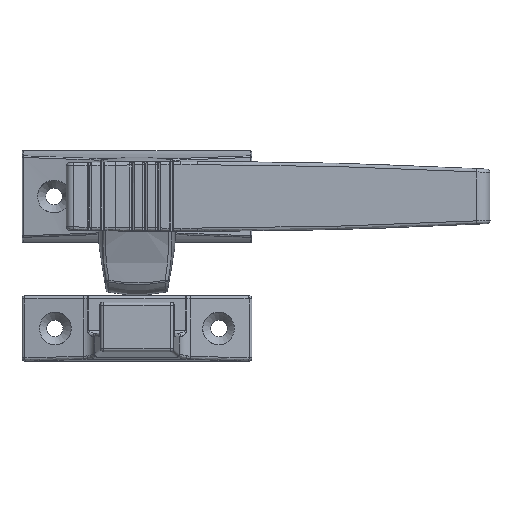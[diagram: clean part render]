
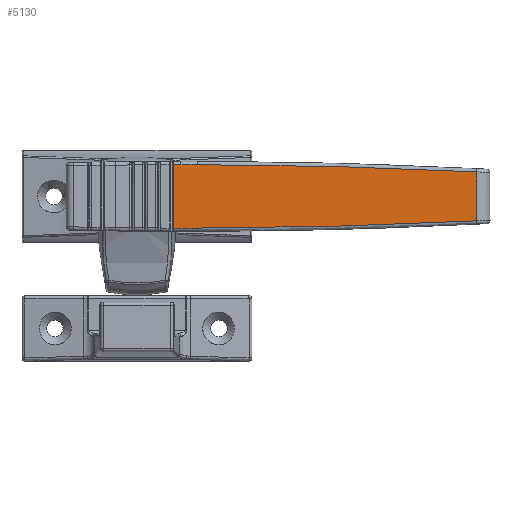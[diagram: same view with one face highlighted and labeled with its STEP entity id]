
A CAD part, top view. The second image highlights one B-rep face of the part: STEP entity #5130.
In plain terms, the highlighted cylindrical face has radius 6498.5 mm (diameter 12997 mm), a partial arc.
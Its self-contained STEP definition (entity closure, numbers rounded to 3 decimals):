
#229=B_SPLINE_CURVE_WITH_KNOTS('',3,(#9827,#9828,#9829,#9830),
 .UNSPECIFIED.,.F.,.F.,(4,4),(9.11,9.331),
 .UNSPECIFIED.);
#231=B_SPLINE_CURVE_WITH_KNOTS('',3,(#9839,#9840,#9841,#9842),
 .UNSPECIFIED.,.F.,.F.,(4,4),(0.,8.499),.UNSPECIFIED.);
#232=B_SPLINE_CURVE_WITH_KNOTS('',3,(#9846,#9847,#9848,#9849),
 .UNSPECIFIED.,.F.,.F.,(4,4),(2.6,11.099),
 .UNSPECIFIED.);
#233=B_SPLINE_CURVE_WITH_KNOTS('',3,(#9852,#9853,#9854,#9855),
 .UNSPECIFIED.,.F.,.F.,(4,4),(1.77,1.991),
 .UNSPECIFIED.);
#543=LINE('',#8352,#765);
#571=LINE('',#9844,#793);
#765=VECTOR('',#6334,19.291);
#793=VECTOR('',#6436,14.913);
#1183=FACE_OUTER_BOUND('',#1552,.T.);
#1552=EDGE_LOOP('',(#3858,#3859,#3860,#3861,#3862,#3863,#3864,#3865));
#1908=CIRCLE('',#5570,6498.5);
#1909=CIRCLE('',#5571,6498.5);
#2203=VERTEX_POINT('',#8346);
#2204=VERTEX_POINT('',#8351);
#2286=VERTEX_POINT('',#9816);
#2287=VERTEX_POINT('',#9836);
#2288=VERTEX_POINT('',#9838);
#2289=VERTEX_POINT('',#9843);
#2290=VERTEX_POINT('',#9845);
#2291=VERTEX_POINT('',#9850);
#2745=EDGE_CURVE('',#2204,#2203,#543,.T.);
#2860=EDGE_CURVE('',#2286,#2203,#229,.T.);
#2862=EDGE_CURVE('',#2287,#2286,#1908,.T.);
#2863=EDGE_CURVE('',#2288,#2287,#231,.T.);
#2864=EDGE_CURVE('',#2289,#2288,#571,.T.);
#2865=EDGE_CURVE('',#2290,#2289,#232,.T.);
#2866=EDGE_CURVE('',#2291,#2290,#1909,.T.);
#2867=EDGE_CURVE('',#2204,#2291,#233,.T.);
#3858=ORIENTED_EDGE('',*,*,#2745,.T.);
#3859=ORIENTED_EDGE('',*,*,#2860,.F.);
#3860=ORIENTED_EDGE('',*,*,#2862,.F.);
#3861=ORIENTED_EDGE('',*,*,#2863,.F.);
#3862=ORIENTED_EDGE('',*,*,#2864,.F.);
#3863=ORIENTED_EDGE('',*,*,#2865,.F.);
#3864=ORIENTED_EDGE('',*,*,#2866,.F.);
#3865=ORIENTED_EDGE('',*,*,#2867,.F.);
#4936=CYLINDRICAL_SURFACE('',#5569,6498.5);
#5130=ADVANCED_FACE('',(#1183),#4936,.F.);
#5569=AXIS2_PLACEMENT_3D('',#9835,#6432,#6433);
#5570=AXIS2_PLACEMENT_3D('',#9837,#6434,#6435);
#5571=AXIS2_PLACEMENT_3D('',#9851,#6437,#6438);
#6334=DIRECTION('',(0.,-1.,0.));
#6432=DIRECTION('center_axis',(0.,1.,0.));
#6433=DIRECTION('ref_axis',(-0.018,0.,1.));
#6434=DIRECTION('center_axis',(0.,1.,0.));
#6435=DIRECTION('ref_axis',(0.003,0.,-1.));
#6436=DIRECTION('',(0.,-1.,0.));
#6437=DIRECTION('center_axis',(0.,-1.,0.));
#6438=DIRECTION('ref_axis',(0.003,0.,-1.));
#8346=CARTESIAN_POINT('',(11.2,-9.645,22.024));
#8351=CARTESIAN_POINT('',(11.2,9.645,22.024));
#8352=CARTESIAN_POINT('',(11.2,0.,22.024));
#9816=CARTESIAN_POINT('',(13.409,-9.65,22.03));
#9827=CARTESIAN_POINT('Ctrl Pts',(13.409,-9.65,22.03));
#9828=CARTESIAN_POINT('Ctrl Pts',(12.673,-9.649,22.028));
#9829=CARTESIAN_POINT('Ctrl Pts',(11.936,-9.647,22.026));
#9830=CARTESIAN_POINT('Ctrl Pts',(11.2,-9.645,22.024));
#9835=CARTESIAN_POINT('Origin',(-6.5,0.,6520.5));
#9836=CARTESIAN_POINT('',(18.495,-9.65,22.048));
#9837=CARTESIAN_POINT('Origin',(-6.5,-9.65,6520.5));
#9838=CARTESIAN_POINT('',(103.432,-7.457,22.93));
#9839=CARTESIAN_POINT('Ctrl Pts',(103.432,-7.457,22.93));
#9840=CARTESIAN_POINT('Ctrl Pts',(75.146,-8.877,22.451));
#9841=CARTESIAN_POINT('Ctrl Pts',(46.821,-9.609,22.157));
#9842=CARTESIAN_POINT('Ctrl Pts',(18.495,-9.65,22.048));
#9843=CARTESIAN_POINT('',(103.432,7.457,22.93));
#9844=CARTESIAN_POINT('',(103.432,0.,22.93));
#9845=CARTESIAN_POINT('',(18.495,9.65,22.048));
#9846=CARTESIAN_POINT('Ctrl Pts',(18.495,9.65,22.048));
#9847=CARTESIAN_POINT('Ctrl Pts',(46.821,9.609,22.157));
#9848=CARTESIAN_POINT('Ctrl Pts',(75.146,8.877,22.451));
#9849=CARTESIAN_POINT('Ctrl Pts',(103.432,7.457,22.93));
#9850=CARTESIAN_POINT('',(13.409,9.65,22.03));
#9851=CARTESIAN_POINT('Origin',(-6.5,9.65,6520.5));
#9852=CARTESIAN_POINT('Ctrl Pts',(11.2,9.645,22.024));
#9853=CARTESIAN_POINT('Ctrl Pts',(11.936,9.647,22.026));
#9854=CARTESIAN_POINT('Ctrl Pts',(12.673,9.649,22.028));
#9855=CARTESIAN_POINT('Ctrl Pts',(13.409,9.65,22.03));
